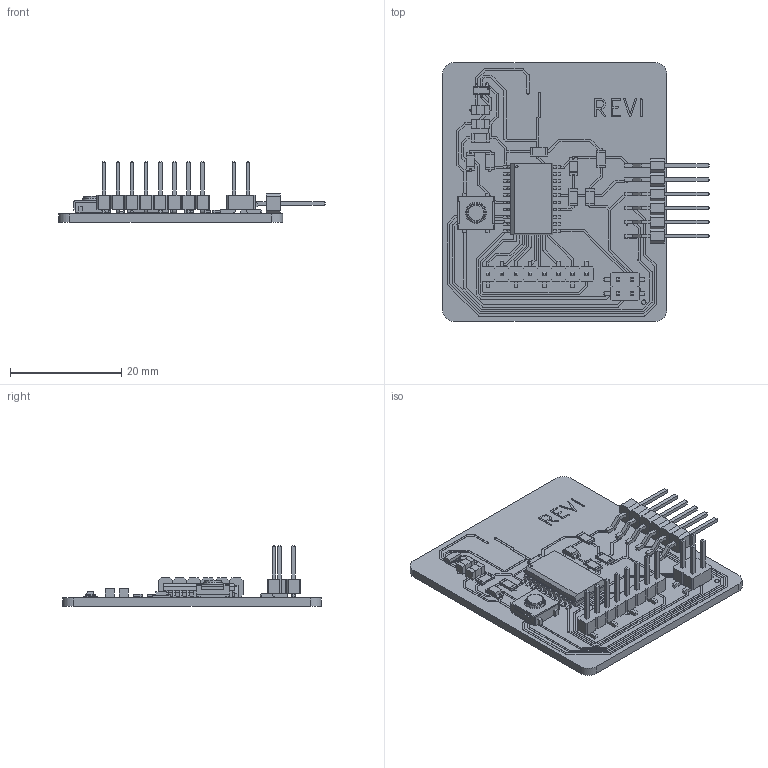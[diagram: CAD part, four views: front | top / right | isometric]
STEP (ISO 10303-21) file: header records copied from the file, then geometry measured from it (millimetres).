
FILE_DESCRIPTION(('KiCad electronic assembly'),'2;1');
FILE_NAME('Developement_board.step','2025-03-05T14:28:29',('Pcbnew'),( 'Kicad'),'Open CASCADE STEP processor 7.8','KiCad to STEP converter' ,'Unknown');
FILE_SCHEMA(('AUTOMOTIVE_DESIGN { 1 0 10303 214 1 1 1 1 }'));
Length unit declared in the file: millimetre
Products named in the file (37): Developement_board 1; R_1206; Ceramic; Contacts; Contacts (Mirror #1); Overcoat; PinHeader_1x08_P2.54mm_Vertical_SMD_Pin1Left; Switch_Omron-B3SN-3112P; Base; Leads; Lead; Body002; Body003; Body004; Button; Cover; Developement_board 1.6; SOIC-20_7.5x12.8mm_P1.27mm; Leads_Right; Package; Dot; C_1206; Terminator_Left; Terminator_Right; Capacitor_Body; Header_SMD_01x06_P2.54mm_Horizontal_Male; Developement_board 1.12.1; Developement_board 1.12.2; PinHeader_2x02_P2.54mm_Vertical_SMD; LED-1206; Emmiter; Contact_1; Contact_2; Developement_board_copper; Developement_board_PCB
Assembly tree (52 placements, depth 4):
  Developement_board 1
    R_1206  x6
      Ceramic
      Contacts
      Contacts (Mirror #1)
      Overcoat
    PinHeader_1x08_P2.54mm_Vertical_SMD_Pin1Left
    Switch_Omron-B3SN-3112P
      Base
      Leads
        Lead
        Body002
        Body003
        Body004
      Button
      Cover
    Developement_board 1.6
    SOIC-20_7.5x12.8mm_P1.27mm
      Leads
        Leads_Right  x10
      Package
      Dot
    C_1206  x2
      Terminator_Left
      Terminator_Right
      Capacitor_Body
    Header_SMD_01x06_P2.54mm_Horizontal_Male
      Developement_board 1.12.1
      Developement_board 1.12.2
    PinHeader_2x02_P2.54mm_Vertical_SMD
    LED-1206  x2
      Base
      Emmiter
      Contact_1
      Contact_2
    Developement_board_copper
    Developement_board_PCB
Bounding box: 47.93 x 46.5 x 10.89 mm (x, y, z)
Volume: 3615.3 mm3; surface area: 6759.2 mm2
Topology: 106 solids, 106 shells, 1933 faces, 4788 edges, 3091 vertices
Faces by surface type: plane 1585, cylinder 332, revolution 12, torus 3, cone 1
Full cylindrical faces by diameter (mm): 0.4 x2, 0.8 x1, 3 x2
Entity records: 46485 total; most frequent: CARTESIAN_POINT 7573, ORIENTED_EDGE 7344, DIRECTION 7272, EDGE_CURVE 3672, LINE 3144, VECTOR 3144, VERTEX_POINT 2359, AXIS2_PLACEMENT_3D 2058
